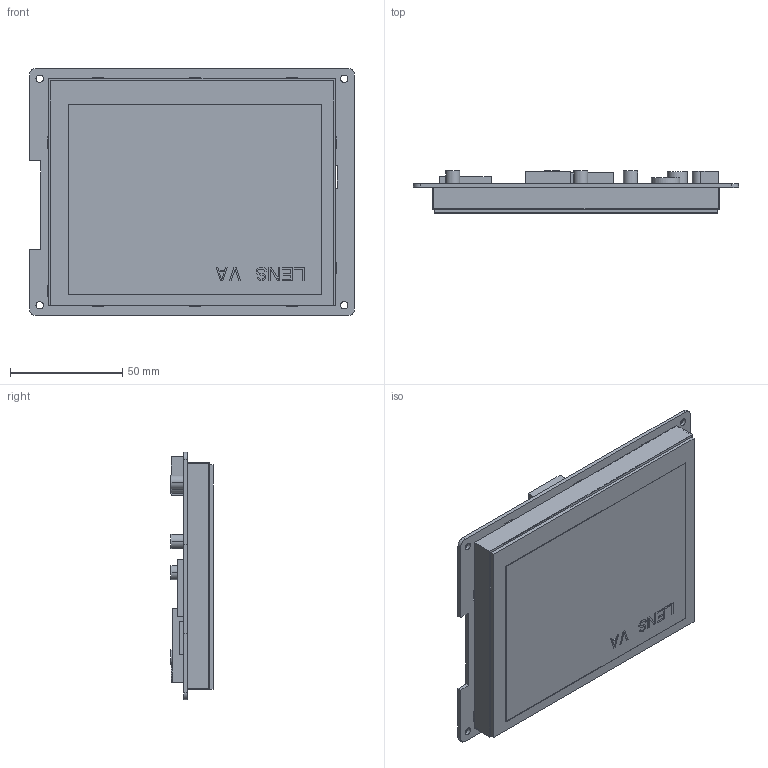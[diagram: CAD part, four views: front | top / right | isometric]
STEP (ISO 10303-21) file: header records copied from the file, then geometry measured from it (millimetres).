
FILE_DESCRIPTION((''),'2;1');
FILE_NAME('DMG64480K050-03WTC_ASM','2022-02-21T',('Administrator'),(''),'PRO/ENGINEER BY PARAMETRIC TECHNOLOGY CORPORATION, 2014320','PRO/ENGINEER BY PARAMETRIC TECHNOLOGY CORPORATION, 2014320','');
FILE_SCHEMA(('CONFIG_CONTROL_DESIGN','SHAPE_APPEARANCE_LAYERS_GROUPS'));
Length unit declared in the file: millimetre
Products named in the file (5): TK056004; AT056TN52; PCB; CTP1; DMG64480K050-03WTC_ASM
Assembly tree (4 placements, depth 2):
  DMG64480K050-03WTC_ASM
    TK056004
    AT056TN52
    PCB
    CTP1
Bounding box: 144.78 x 18.73 x 110.24 mm (x, y, z)
Volume: 128635.1 mm3; surface area: 103769.1 mm2
Topology: 4 solids, 4 shells, 291 faces, 768 edges, 512 vertices
Faces by surface type: plane 263, cylinder 28
Entity records: 9118 total; most frequent: CARTESIAN_POINT 1580, ORIENTED_EDGE 1536, DIRECTION 1424, EDGE_CURVE 768, VECTOR 712, LINE 712, VERTEX_POINT 512, AXIS2_PLACEMENT_3D 356
